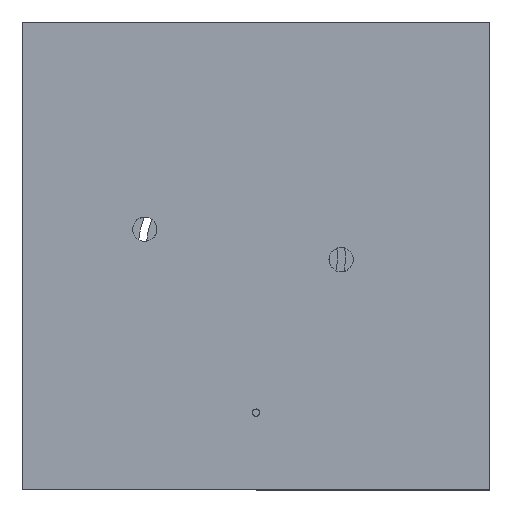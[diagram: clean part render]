
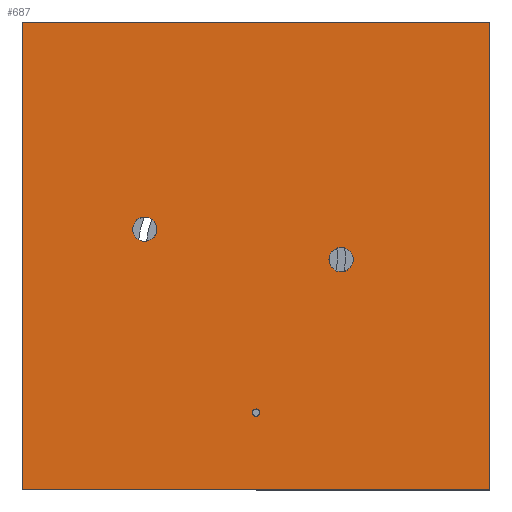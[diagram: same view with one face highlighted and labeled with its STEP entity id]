
A CAD part, top view. The second image highlights one B-rep face of the part: STEP entity #687.
In plain terms, the highlighted planar face has unit normal (0, 0, 1).
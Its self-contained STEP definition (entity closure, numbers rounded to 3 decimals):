
#687 = ADVANCED_FACE( '', ( #1510, #1511, #1512, #1513 ), #1514, .T. );
#1510 = FACE_BOUND( '', #2536, .T. );
#1511 = FACE_BOUND( '', #2537, .T. );
#1512 = FACE_BOUND( '', #2538, .T. );
#1513 = FACE_OUTER_BOUND( '', #2539, .T. );
#1514 = PLANE( '', #2540 );
#2536 = EDGE_LOOP( '', ( #4164 ) );
#2537 = EDGE_LOOP( '', ( #4165 ) );
#2538 = EDGE_LOOP( '', ( #4166 ) );
#2539 = EDGE_LOOP( '', ( #4167, #4168, #4169, #4170 ) );
#2540 = AXIS2_PLACEMENT_3D( '', #4171, #4172, #4173 );
#4164 = ORIENTED_EDGE( '', *, *, #5728, .F. );
#4165 = ORIENTED_EDGE( '', *, *, #5900, .F. );
#4166 = ORIENTED_EDGE( '', *, *, #5664, .F. );
#4167 = ORIENTED_EDGE( '', *, *, #5804, .T. );
#4168 = ORIENTED_EDGE( '', *, *, #5627, .T. );
#4169 = ORIENTED_EDGE( '', *, *, #5901, .T. );
#4170 = ORIENTED_EDGE( '', *, *, #5902, .T. );
#4171 = CARTESIAN_POINT( '', ( 0., 0., 30. ) );
#4172 = DIRECTION( '', ( 0., 0., 1. ) );
#4173 = DIRECTION( '', ( 1., 0., 0. ) );
#5627 = EDGE_CURVE( '', #6719, #6717, #6720, .T. );
#5664 = EDGE_CURVE( '', #6775, #6775, #6776, .T. );
#5728 = EDGE_CURVE( '', #6881, #6881, #6882, .T. );
#5804 = EDGE_CURVE( '', #6993, #6719, #6994, .T. );
#5900 = EDGE_CURVE( '', #7138, #7138, #7139, .T. );
#5901 = EDGE_CURVE( '', #6717, #7140, #7141, .T. );
#5902 = EDGE_CURVE( '', #7140, #6993, #7142, .T. );
#6717 = VERTEX_POINT( '', #8205 );
#6719 = VERTEX_POINT( '', #8208 );
#6720 = LINE( '', #8209, #8210 );
#6775 = VERTEX_POINT( '', #8283 );
#6776 = CIRCLE( '', #8284, 25. );
#6881 = VERTEX_POINT( '', #8417 );
#6882 = CIRCLE( '', #8418, 7.5 );
#6993 = VERTEX_POINT( '', #8558 );
#6994 = LINE( '', #8559, #8560 );
#7138 = VERTEX_POINT( '', #8752 );
#7139 = CIRCLE( '', #8753, 25. );
#7140 = VERTEX_POINT( '', #8754 );
#7141 = LINE( '', #8755, #8756 );
#7142 = LINE( '', #8757, #8758 );
#8205 = CARTESIAN_POINT( '', ( 0., 0., 30. ) );
#8208 = CARTESIAN_POINT( '', ( 0., 962., 30. ) );
#8209 = CARTESIAN_POINT( '', ( 0., 962., 30. ) );
#8210 = VECTOR( '', #9567, 1000. );
#8283 = CARTESIAN_POINT( '', ( 681., 473.5, 30. ) );
#8284 = AXIS2_PLACEMENT_3D( '', #9610, #9611, #9612 );
#8417 = CARTESIAN_POINT( '', ( 488.5, 159., 30. ) );
#8418 = AXIS2_PLACEMENT_3D( '', #9701, #9702, #9703 );
#8558 = CARTESIAN_POINT( '', ( 962., 962., 30. ) );
#8559 = CARTESIAN_POINT( '', ( 962., 962., 30. ) );
#8560 = VECTOR( '', #9790, 1000. );
#8752 = CARTESIAN_POINT( '', ( 277.25, 536., 30. ) );
#8753 = AXIS2_PLACEMENT_3D( '', #9899, #9900, #9901 );
#8754 = CARTESIAN_POINT( '', ( 962., 0., 30. ) );
#8755 = CARTESIAN_POINT( '', ( 0., 0., 30. ) );
#8756 = VECTOR( '', #9902, 1000. );
#8757 = CARTESIAN_POINT( '', ( 962., 0., 30. ) );
#8758 = VECTOR( '', #9903, 1000. );
#9567 = DIRECTION( '', ( 0., -1., 0. ) );
#9610 = CARTESIAN_POINT( '', ( 656., 473.5, 30. ) );
#9611 = DIRECTION( '', ( 0., 0., 1. ) );
#9612 = DIRECTION( '', ( 1., 0., 0. ) );
#9701 = CARTESIAN_POINT( '', ( 481., 159., 30. ) );
#9702 = DIRECTION( '', ( 0., 0., 1. ) );
#9703 = DIRECTION( '', ( 1., 0., 0. ) );
#9790 = DIRECTION( '', ( -1., 0., 0. ) );
#9899 = CARTESIAN_POINT( '', ( 252.25, 536., 30. ) );
#9900 = DIRECTION( '', ( 0., 0., 1. ) );
#9901 = DIRECTION( '', ( 1., 0., 0. ) );
#9902 = DIRECTION( '', ( 1., 0., 0. ) );
#9903 = DIRECTION( '', ( 0., 1., 0. ) );
